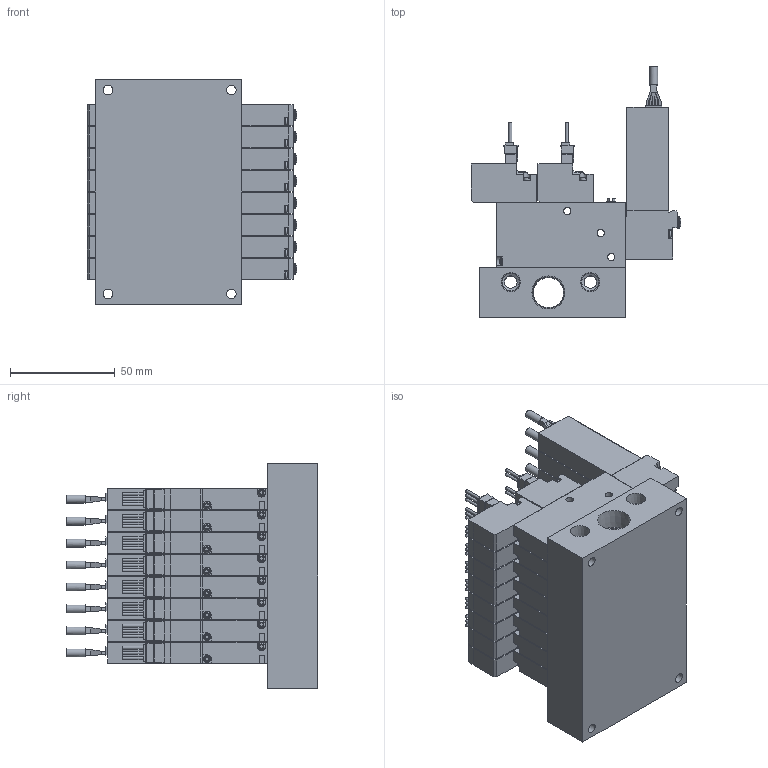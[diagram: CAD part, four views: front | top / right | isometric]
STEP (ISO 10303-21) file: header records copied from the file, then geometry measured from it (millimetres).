
FILE_DESCRIPTION(('STEP AP203'),'1');
FILE_NAME('BMPV42MV9.V9P5W808.stp','2025-04-30T07:25:58',(' '),(' '),'Spatial InterOp 3D',' ',' ');
FILE_SCHEMA(('CONFIG_CONTROL_DESIGN'));
Length unit declared in the file: millimetre
Products named in the file (18): BMPV42MV9.V9P5W808; VACUUM VALVE FUNCTION MPV42-W; VACUUM SENSOR MPV42-V9; VACUUM VALVE FUNCTION MPV42-A; UNIT-MPV42; MC4-M8
Assembly tree (33 placements, depth 2):
  BMPV42MV9.V9P5W808
    VACUUM VALVE FUNCTION MPV42-W  x5
    VACUUM SENSOR MPV42-V9  x5
    VACUUM VALVE FUNCTION MPV42-A  x5
    UNIT-MPV42  x5
    VACUUM VALVE FUNCTION MPV42-W
    VACUUM VALVE FUNCTION MPV42-A
    UNIT-MPV42
    VACUUM SENSOR MPV42-V9
    VACUUM VALVE FUNCTION MPV42-W
    VACUUM VALVE FUNCTION MPV42-A
    UNIT-MPV42
    VACUUM SENSOR MPV42-V9
    MC4-M8
    VACUUM VALVE FUNCTION MPV42-W
    VACUUM VALVE FUNCTION MPV42-A
    UNIT-MPV42
    VACUUM SENSOR MPV42-V9
Bounding box: 100.35 x 120.3 x 107.5 mm (x, y, z)
Volume: 507946.7 mm3; surface area: 166315.7 mm2
Topology: 33 solids, 33 shells, 3097 faces, 8378 edges, 5547 vertices
Faces by surface type: plane 2422, cylinder 547, cone 48, sphere 40, torus 40
Full cylindrical faces by diameter (mm): 1.4 x40, 1.8 x8, 2.2 x16, 3 x32, 3.5 x88, 3.8 x8, 4.134 x16, 4.5 x4, 5 x8, 5.5 x8, 6 x2, 8.2 x4, 14.5 x1
Entity records: 49198 total; most frequent: CARTESIAN_POINT 9451, ORIENTED_EDGE 7900, DIRECTION 7806, EDGE_CURVE 3950, LINE 3116, VECTOR 3116, VERTEX_POINT 2718, AXIS2_PLACEMENT_3D 2345
